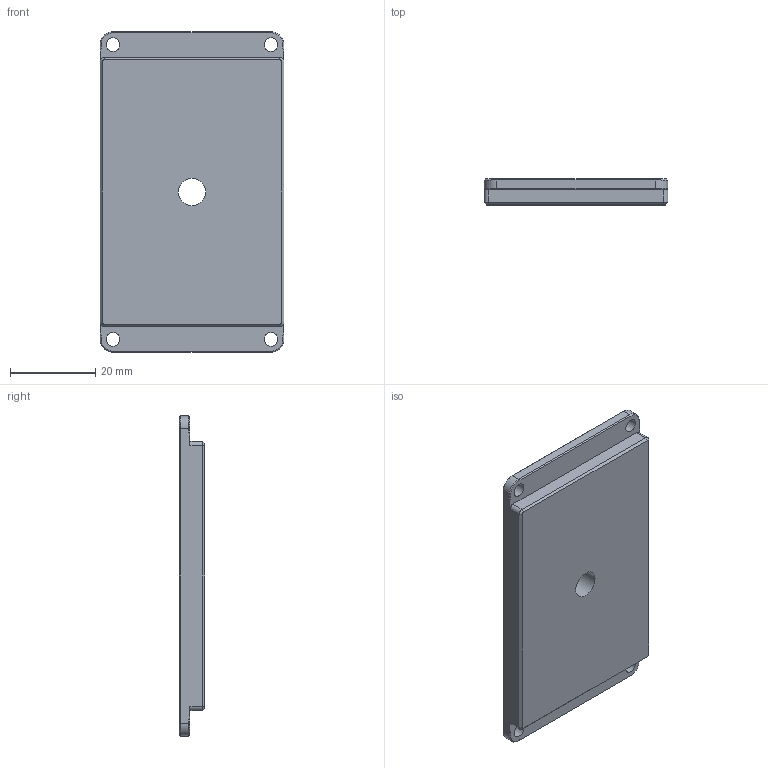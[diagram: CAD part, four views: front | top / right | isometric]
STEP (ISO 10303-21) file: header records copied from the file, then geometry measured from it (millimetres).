
FILE_DESCRIPTION (( 'STEP AP203' ), '1' );
FILE_NAME ('12-02905-00000.STEP', '2022-10-27T17:01:29', ( '' ), ( '' ), 'SwSTEP 2.0', 'SolidWorks 2020', '' );
FILE_SCHEMA (( 'CONFIG_CONTROL_DESIGN' ));
Length unit declared in the file: millimetre
Products named in the file (1): 12-02905-00000
Bounding box: 43 x 6 x 75 mm (x, y, z)
Volume: 17214.9 mm3; surface area: 7730 mm2
Topology: 1 solids, 1 shells, 53 faces, 129 edges, 78 vertices
Faces by surface type: plane 24, cone 16, cylinder 13
Full cylindrical faces by diameter (mm): 3.2 x4, 6.35 x1
Entity records: 1617 total; most frequent: CARTESIAN_POINT 276, DIRECTION 270, ORIENTED_EDGE 248, EDGE_CURVE 124, AXIS2_PLACEMENT_3D 96, VERTEX_POINT 78, LINE 78, VECTOR 78
